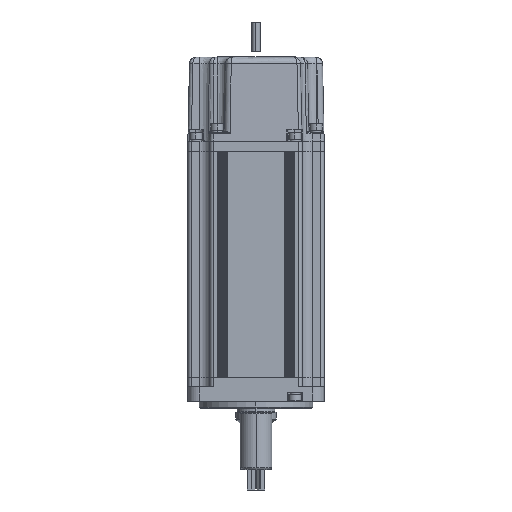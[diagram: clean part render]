
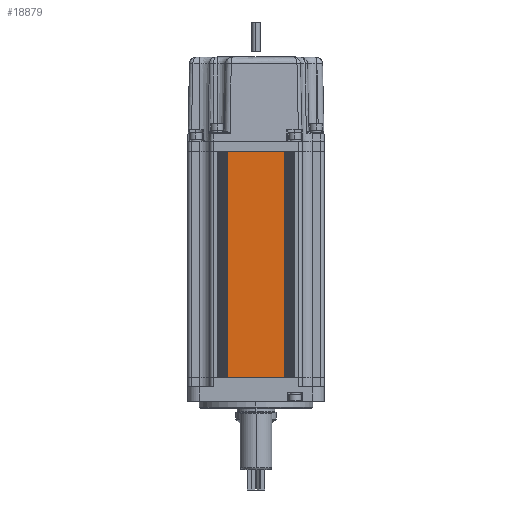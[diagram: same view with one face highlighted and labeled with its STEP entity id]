
A CAD part, left-side view. The second image highlights one B-rep face of the part: STEP entity #18879.
In plain terms, the highlighted planar face has unit normal (-1, 0, 0) as drawn and (1, 0, 0) by its records, which use the part's own axes.
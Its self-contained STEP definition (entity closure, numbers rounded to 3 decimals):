
#12036=DIRECTION('',(0.,1.,0.));
#12037=VECTOR('',#12036,25.);
#12038=CARTESIAN_POINT('',(30.,-12.5,0.));
#12039=LINE('',#12038,#12037);
#13361=DIRECTION('',(0.,1.,0.));
#13362=VECTOR('',#13361,25.);
#13363=CARTESIAN_POINT('',(30.,-12.5,99.5));
#13364=LINE('',#13363,#13362);
#14523=DIRECTION('',(0.,0.,1.));
#14524=VECTOR('',#14523,99.5);
#14525=CARTESIAN_POINT('',(30.,12.5,0.));
#14526=LINE('',#14525,#14524);
#14527=DIRECTION('',(0.,0.,1.));
#14528=VECTOR('',#14527,99.5);
#14529=CARTESIAN_POINT('',(30.,-12.5,0.));
#14530=LINE('',#14529,#14528);
#15646=CARTESIAN_POINT('',(30.,-12.5,0.));
#15648=VERTEX_POINT('',#15646);
#15710=CARTESIAN_POINT('',(30.,-12.5,99.5));
#15712=VERTEX_POINT('',#15710);
#16002=CARTESIAN_POINT('',(30.,12.5,0.));
#16003=VERTEX_POINT('',#16002);
#16034=CARTESIAN_POINT('',(30.,12.5,99.5));
#16035=VERTEX_POINT('',#16034);
#18866=CARTESIAN_POINT('',(30.,-30.,0.));
#18867=DIRECTION('',(1.,0.,0.));
#18868=DIRECTION('',(0.,1.,0.));
#18869=AXIS2_PLACEMENT_3D('',#18866,#18867,#18868);
#18870=PLANE('',#18869);
#18872=ORIENTED_EDGE('',*,*,#18871,.F.);
#18873=ORIENTED_EDGE('',*,*,#16387,.F.);
#18875=ORIENTED_EDGE('',*,*,#18874,.T.);
#18876=ORIENTED_EDGE('',*,*,#17439,.T.);
#18877=EDGE_LOOP('',(#18872,#18873,#18875,#18876));
#18878=FACE_OUTER_BOUND('',#18877,.F.);
#16387=EDGE_CURVE('',#15648,#16003,#12039,.T.);
#17439=EDGE_CURVE('',#15712,#16035,#13364,.T.);
#18871=EDGE_CURVE('',#16003,#16035,#14526,.T.);
#18874=EDGE_CURVE('',#15648,#15712,#14530,.T.);
#18879=ADVANCED_FACE('',(#18878),#18870,.T.);
